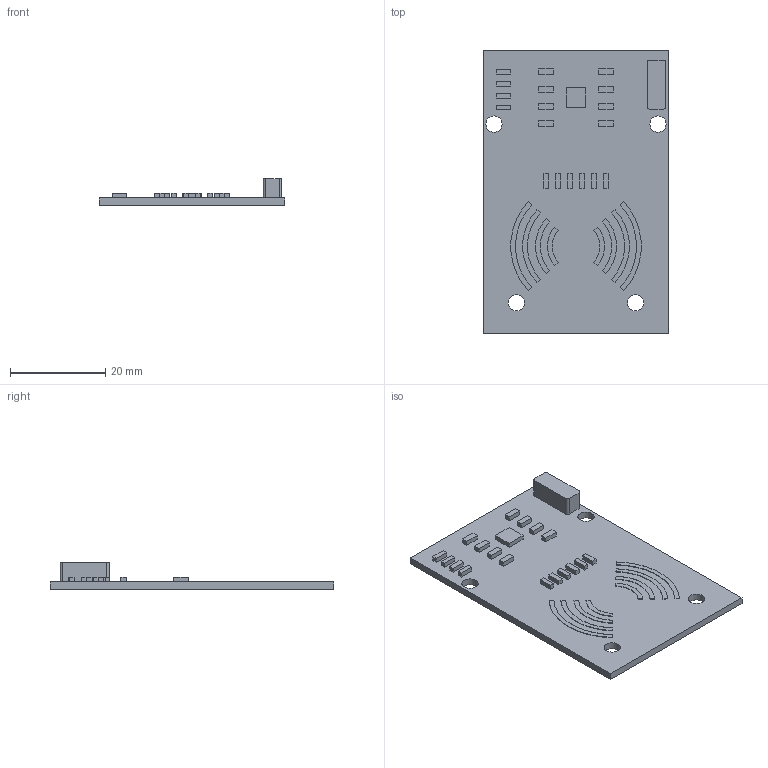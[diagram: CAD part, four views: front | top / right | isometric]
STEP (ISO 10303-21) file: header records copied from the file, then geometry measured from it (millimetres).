
FILE_DESCRIPTION(('FreeCAD Model'),'2;1');
FILE_NAME('Open CASCADE Shape Model','2023-04-10T16:29:41',('Author'),( ''),'Open CASCADE STEP processor 7.5','FreeCAD','Unknown');
FILE_SCHEMA(('AUTOMOTIVE_DESIGN { 1 0 10303 214 1 1 1 1 }'));
Length unit declared in the file: millimetre
Products named in the file (3): RFID-RC522; Pocket067; rfid signal
Assembly tree (2 placements, depth 2):
  RFID-RC522
    Pocket067
    rfid signal
Bounding box: 39 x 59.5 x 5.5 mm (x, y, z)
Volume: 3675 mm3; surface area: 5451.8 mm2
Topology: 9 solids, 9 shells, 162 faces, 372 edges, 248 vertices
Faces by surface type: plane 138, cylinder 24
Full cylindrical faces by diameter (mm): 3.4 x4
Entity records: 9532 total; most frequent: CARTESIAN_POINT 1921, DIRECTION 1342, LINE 916, VECTOR 916, ORIENTED_EDGE 744, PCURVE 744, DEFINITIONAL_REPRESENTATION 744, EDGE_CURVE 372
